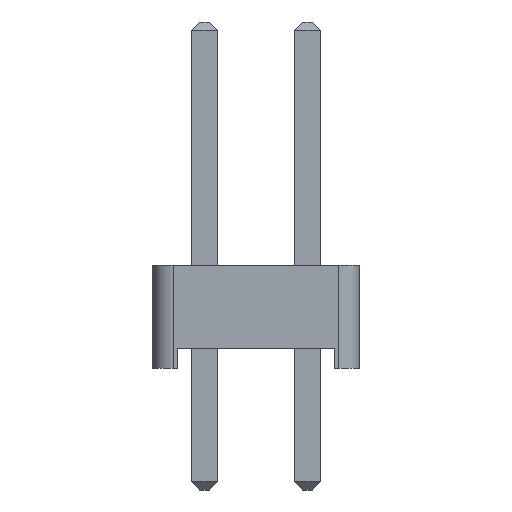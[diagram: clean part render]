
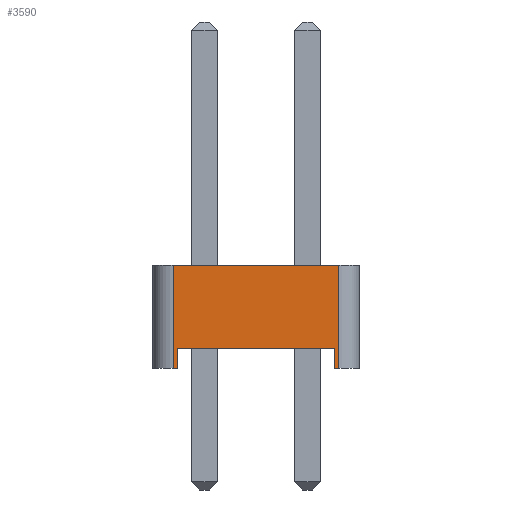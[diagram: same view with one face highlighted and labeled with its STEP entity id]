
A CAD part, left-side view. The second image highlights one B-rep face of the part: STEP entity #3590.
In plain terms, the highlighted planar face has unit normal (-1, 0, 0).
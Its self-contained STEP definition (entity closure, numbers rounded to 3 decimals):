
#3330 = VERTEX_POINT('',#3331);
#3331 = CARTESIAN_POINT('',(-1.27,2.04,0.));
#3339 = PLANE('',#3340);
#3340 = AXIS2_PLACEMENT_3D('',#3341,#3342,#3343);
#3341 = CARTESIAN_POINT('',(0.,0.,0.));
#3342 = DIRECTION('',(-0.,-0.,-1.));
#3343 = DIRECTION('',(-1.,0.,0.));
#3355 = CYLINDRICAL_SURFACE('',#3356,0.5);
#3356 = AXIS2_PLACEMENT_3D('',#3357,#3358,#3359);
#3357 = CARTESIAN_POINT('',(-0.77,2.04,0.));
#3358 = DIRECTION('',(0.,0.,1.));
#3359 = DIRECTION('',(0.,1.,0.));
#3457 = VERTEX_POINT('',#3458);
#3458 = CARTESIAN_POINT('',(-1.27,1.94,0.));
#3472 = PLANE('',#3473);
#3473 = AXIS2_PLACEMENT_3D('',#3474,#3475,#3476);
#3474 = CARTESIAN_POINT('',(1.27,1.94,0.));
#3475 = DIRECTION('',(0.,-1.,0.));
#3476 = DIRECTION('',(-1.,0.,0.));
#3484 = EDGE_CURVE('',#3457,#3330,#3485,.T.);
#3485 = SURFACE_CURVE('',#3486,(#3490,#3497),.PCURVE_S1.);
#3486 = LINE('',#3487,#3488);
#3487 = CARTESIAN_POINT('',(-1.27,-2.54,0.));
#3488 = VECTOR('',#3489,1.);
#3489 = DIRECTION('',(0.,1.,0.));
#3490 = PCURVE('',#3339,#3491);
#3491 = DEFINITIONAL_REPRESENTATION('',(#3492),#3496);
#3492 = LINE('',#3493,#3494);
#3493 = CARTESIAN_POINT('',(1.27,-2.54));
#3494 = VECTOR('',#3495,1.);
#3495 = DIRECTION('',(0.,1.));
#3496 = ( GEOMETRIC_REPRESENTATION_CONTEXT(2) 
PARAMETRIC_REPRESENTATION_CONTEXT() REPRESENTATION_CONTEXT('2D SPACE',''
  ) );
#3497 = PCURVE('',#3498,#3503);
#3498 = PLANE('',#3499);
#3499 = AXIS2_PLACEMENT_3D('',#3500,#3501,#3502);
#3500 = CARTESIAN_POINT('',(-1.27,-2.54,0.));
#3501 = DIRECTION('',(-1.,0.,0.));
#3502 = DIRECTION('',(0.,1.,0.));
#3503 = DEFINITIONAL_REPRESENTATION('',(#3504),#3508);
#3504 = LINE('',#3505,#3506);
#3505 = CARTESIAN_POINT('',(0.,0.));
#3506 = VECTOR('',#3507,1.);
#3507 = DIRECTION('',(1.,0.));
#3508 = ( GEOMETRIC_REPRESENTATION_CONTEXT(2) 
PARAMETRIC_REPRESENTATION_CONTEXT() REPRESENTATION_CONTEXT('2D SPACE',''
  ) );
#3514 = EDGE_CURVE('',#3330,#3515,#3517,.T.);
#3515 = VERTEX_POINT('',#3516);
#3516 = CARTESIAN_POINT('',(-1.27,2.04,2.54));
#3517 = SURFACE_CURVE('',#3518,(#3522,#3529),.PCURVE_S1.);
#3518 = LINE('',#3519,#3520);
#3519 = CARTESIAN_POINT('',(-1.27,2.04,0.));
#3520 = VECTOR('',#3521,1.);
#3521 = DIRECTION('',(0.,0.,1.));
#3522 = PCURVE('',#3355,#3523);
#3523 = DEFINITIONAL_REPRESENTATION('',(#3524),#3528);
#3524 = LINE('',#3525,#3526);
#3525 = CARTESIAN_POINT('',(1.571,0.));
#3526 = VECTOR('',#3527,1.);
#3527 = DIRECTION('',(0.,1.));
#3528 = ( GEOMETRIC_REPRESENTATION_CONTEXT(2) 
PARAMETRIC_REPRESENTATION_CONTEXT() REPRESENTATION_CONTEXT('2D SPACE',''
  ) );
#3529 = PCURVE('',#3498,#3530);
#3530 = DEFINITIONAL_REPRESENTATION('',(#3531),#3535);
#3531 = LINE('',#3532,#3533);
#3532 = CARTESIAN_POINT('',(4.58,0.));
#3533 = VECTOR('',#3534,1.);
#3534 = DIRECTION('',(0.,-1.));
#3535 = ( GEOMETRIC_REPRESENTATION_CONTEXT(2) 
PARAMETRIC_REPRESENTATION_CONTEXT() REPRESENTATION_CONTEXT('2D SPACE',''
  ) );
#3554 = PLANE('',#3555);
#3555 = AXIS2_PLACEMENT_3D('',#3556,#3557,#3558);
#3556 = CARTESIAN_POINT('',(0.,0.,2.54));
#3557 = DIRECTION('',(-0.,-0.,-1.));
#3558 = DIRECTION('',(-1.,0.,0.));
#3590 = ADVANCED_FACE('',(#3591),#3498,.T.);
#3591 = FACE_BOUND('',#3592,.T.);
#3592 = EDGE_LOOP('',(#3593,#3623,#3651,#3672,#3673,#3674,#3697,#3725));
#3593 = ORIENTED_EDGE('',*,*,#3594,.F.);
#3594 = EDGE_CURVE('',#3595,#3597,#3599,.T.);
#3595 = VERTEX_POINT('',#3596);
#3596 = CARTESIAN_POINT('',(-1.27,-2.04,0.));
#3597 = VERTEX_POINT('',#3598);
#3598 = CARTESIAN_POINT('',(-1.27,-1.94,0.));
#3599 = SURFACE_CURVE('',#3600,(#3604,#3611),.PCURVE_S1.);
#3600 = LINE('',#3601,#3602);
#3601 = CARTESIAN_POINT('',(-1.27,-2.54,0.));
#3602 = VECTOR('',#3603,1.);
#3603 = DIRECTION('',(0.,1.,0.));
#3604 = PCURVE('',#3498,#3605);
#3605 = DEFINITIONAL_REPRESENTATION('',(#3606),#3610);
#3606 = LINE('',#3607,#3608);
#3607 = CARTESIAN_POINT('',(0.,0.));
#3608 = VECTOR('',#3609,1.);
#3609 = DIRECTION('',(1.,0.));
#3610 = ( GEOMETRIC_REPRESENTATION_CONTEXT(2) 
PARAMETRIC_REPRESENTATION_CONTEXT() REPRESENTATION_CONTEXT('2D SPACE',''
  ) );
#3611 = PCURVE('',#3612,#3617);
#3612 = PLANE('',#3613);
#3613 = AXIS2_PLACEMENT_3D('',#3614,#3615,#3616);
#3614 = CARTESIAN_POINT('',(0.,0.,0.));
#3615 = DIRECTION('',(-0.,-0.,-1.));
#3616 = DIRECTION('',(-1.,0.,0.));
#3617 = DEFINITIONAL_REPRESENTATION('',(#3618),#3622);
#3618 = LINE('',#3619,#3620);
#3619 = CARTESIAN_POINT('',(1.27,-2.54));
#3620 = VECTOR('',#3621,1.);
#3621 = DIRECTION('',(0.,1.));
#3622 = ( GEOMETRIC_REPRESENTATION_CONTEXT(2) 
PARAMETRIC_REPRESENTATION_CONTEXT() REPRESENTATION_CONTEXT('2D SPACE',''
  ) );
#3623 = ORIENTED_EDGE('',*,*,#3624,.T.);
#3624 = EDGE_CURVE('',#3595,#3625,#3627,.T.);
#3625 = VERTEX_POINT('',#3626);
#3626 = CARTESIAN_POINT('',(-1.27,-2.04,2.54));
#3627 = SURFACE_CURVE('',#3628,(#3632,#3639),.PCURVE_S1.);
#3628 = LINE('',#3629,#3630);
#3629 = CARTESIAN_POINT('',(-1.27,-2.04,0.));
#3630 = VECTOR('',#3631,1.);
#3631 = DIRECTION('',(0.,0.,1.));
#3632 = PCURVE('',#3498,#3633);
#3633 = DEFINITIONAL_REPRESENTATION('',(#3634),#3638);
#3634 = LINE('',#3635,#3636);
#3635 = CARTESIAN_POINT('',(0.5,0.));
#3636 = VECTOR('',#3637,1.);
#3637 = DIRECTION('',(0.,-1.));
#3638 = ( GEOMETRIC_REPRESENTATION_CONTEXT(2) 
PARAMETRIC_REPRESENTATION_CONTEXT() REPRESENTATION_CONTEXT('2D SPACE',''
  ) );
#3639 = PCURVE('',#3640,#3645);
#3640 = CYLINDRICAL_SURFACE('',#3641,0.5);
#3641 = AXIS2_PLACEMENT_3D('',#3642,#3643,#3644);
#3642 = CARTESIAN_POINT('',(-0.77,-2.04,0.));
#3643 = DIRECTION('',(0.,0.,1.));
#3644 = DIRECTION('',(0.,-1.,0.));
#3645 = DEFINITIONAL_REPRESENTATION('',(#3646),#3650);
#3646 = LINE('',#3647,#3648);
#3647 = CARTESIAN_POINT('',(-1.571,0.));
#3648 = VECTOR('',#3649,1.);
#3649 = DIRECTION('',(-0.,1.));
#3650 = ( GEOMETRIC_REPRESENTATION_CONTEXT(2) 
PARAMETRIC_REPRESENTATION_CONTEXT() REPRESENTATION_CONTEXT('2D SPACE',''
  ) );
#3651 = ORIENTED_EDGE('',*,*,#3652,.T.);
#3652 = EDGE_CURVE('',#3625,#3515,#3653,.T.);
#3653 = SURFACE_CURVE('',#3654,(#3658,#3665),.PCURVE_S1.);
#3654 = LINE('',#3655,#3656);
#3655 = CARTESIAN_POINT('',(-1.27,-2.54,2.54));
#3656 = VECTOR('',#3657,1.);
#3657 = DIRECTION('',(0.,1.,0.));
#3658 = PCURVE('',#3498,#3659);
#3659 = DEFINITIONAL_REPRESENTATION('',(#3660),#3664);
#3660 = LINE('',#3661,#3662);
#3661 = CARTESIAN_POINT('',(0.,-2.54));
#3662 = VECTOR('',#3663,1.);
#3663 = DIRECTION('',(1.,0.));
#3664 = ( GEOMETRIC_REPRESENTATION_CONTEXT(2) 
PARAMETRIC_REPRESENTATION_CONTEXT() REPRESENTATION_CONTEXT('2D SPACE',''
  ) );
#3665 = PCURVE('',#3554,#3666);
#3666 = DEFINITIONAL_REPRESENTATION('',(#3667),#3671);
#3667 = LINE('',#3668,#3669);
#3668 = CARTESIAN_POINT('',(1.27,-2.54));
#3669 = VECTOR('',#3670,1.);
#3670 = DIRECTION('',(0.,1.));
#3671 = ( GEOMETRIC_REPRESENTATION_CONTEXT(2) 
PARAMETRIC_REPRESENTATION_CONTEXT() REPRESENTATION_CONTEXT('2D SPACE',''
  ) );
#3672 = ORIENTED_EDGE('',*,*,#3514,.F.);
#3673 = ORIENTED_EDGE('',*,*,#3484,.F.);
#3674 = ORIENTED_EDGE('',*,*,#3675,.T.);
#3675 = EDGE_CURVE('',#3457,#3676,#3678,.T.);
#3676 = VERTEX_POINT('',#3677);
#3677 = CARTESIAN_POINT('',(-1.27,1.94,0.5));
#3678 = SURFACE_CURVE('',#3679,(#3683,#3690),.PCURVE_S1.);
#3679 = LINE('',#3680,#3681);
#3680 = CARTESIAN_POINT('',(-1.27,1.94,0.));
#3681 = VECTOR('',#3682,1.);
#3682 = DIRECTION('',(0.,0.,1.));
#3683 = PCURVE('',#3498,#3684);
#3684 = DEFINITIONAL_REPRESENTATION('',(#3685),#3689);
#3685 = LINE('',#3686,#3687);
#3686 = CARTESIAN_POINT('',(4.48,0.));
#3687 = VECTOR('',#3688,1.);
#3688 = DIRECTION('',(0.,-1.));
#3689 = ( GEOMETRIC_REPRESENTATION_CONTEXT(2) 
PARAMETRIC_REPRESENTATION_CONTEXT() REPRESENTATION_CONTEXT('2D SPACE',''
  ) );
#3690 = PCURVE('',#3472,#3691);
#3691 = DEFINITIONAL_REPRESENTATION('',(#3692),#3696);
#3692 = LINE('',#3693,#3694);
#3693 = CARTESIAN_POINT('',(2.54,0.));
#3694 = VECTOR('',#3695,1.);
#3695 = DIRECTION('',(0.,-1.));
#3696 = ( GEOMETRIC_REPRESENTATION_CONTEXT(2) 
PARAMETRIC_REPRESENTATION_CONTEXT() REPRESENTATION_CONTEXT('2D SPACE',''
  ) );
#3697 = ORIENTED_EDGE('',*,*,#3698,.T.);
#3698 = EDGE_CURVE('',#3676,#3699,#3701,.T.);
#3699 = VERTEX_POINT('',#3700);
#3700 = CARTESIAN_POINT('',(-1.27,-1.94,0.5));
#3701 = SURFACE_CURVE('',#3702,(#3706,#3713),.PCURVE_S1.);
#3702 = LINE('',#3703,#3704);
#3703 = CARTESIAN_POINT('',(-1.27,1.94,0.5));
#3704 = VECTOR('',#3705,1.);
#3705 = DIRECTION('',(0.,-1.,0.));
#3706 = PCURVE('',#3498,#3707);
#3707 = DEFINITIONAL_REPRESENTATION('',(#3708),#3712);
#3708 = LINE('',#3709,#3710);
#3709 = CARTESIAN_POINT('',(4.48,-0.5));
#3710 = VECTOR('',#3711,1.);
#3711 = DIRECTION('',(-1.,0.));
#3712 = ( GEOMETRIC_REPRESENTATION_CONTEXT(2) 
PARAMETRIC_REPRESENTATION_CONTEXT() REPRESENTATION_CONTEXT('2D SPACE',''
  ) );
#3713 = PCURVE('',#3714,#3719);
#3714 = PLANE('',#3715);
#3715 = AXIS2_PLACEMENT_3D('',#3716,#3717,#3718);
#3716 = CARTESIAN_POINT('',(0.,0.,0.5));
#3717 = DIRECTION('',(0.,0.,1.));
#3718 = DIRECTION('',(1.,0.,0.));
#3719 = DEFINITIONAL_REPRESENTATION('',(#3720),#3724);
#3720 = LINE('',#3721,#3722);
#3721 = CARTESIAN_POINT('',(-1.27,1.94));
#3722 = VECTOR('',#3723,1.);
#3723 = DIRECTION('',(0.,-1.));
#3724 = ( GEOMETRIC_REPRESENTATION_CONTEXT(2) 
PARAMETRIC_REPRESENTATION_CONTEXT() REPRESENTATION_CONTEXT('2D SPACE',''
  ) );
#3725 = ORIENTED_EDGE('',*,*,#3726,.F.);
#3726 = EDGE_CURVE('',#3597,#3699,#3727,.T.);
#3727 = SURFACE_CURVE('',#3728,(#3732,#3739),.PCURVE_S1.);
#3728 = LINE('',#3729,#3730);
#3729 = CARTESIAN_POINT('',(-1.27,-1.94,0.));
#3730 = VECTOR('',#3731,1.);
#3731 = DIRECTION('',(0.,0.,1.));
#3732 = PCURVE('',#3498,#3733);
#3733 = DEFINITIONAL_REPRESENTATION('',(#3734),#3738);
#3734 = LINE('',#3735,#3736);
#3735 = CARTESIAN_POINT('',(0.6,0.));
#3736 = VECTOR('',#3737,1.);
#3737 = DIRECTION('',(0.,-1.));
#3738 = ( GEOMETRIC_REPRESENTATION_CONTEXT(2) 
PARAMETRIC_REPRESENTATION_CONTEXT() REPRESENTATION_CONTEXT('2D SPACE',''
  ) );
#3739 = PCURVE('',#3740,#3745);
#3740 = PLANE('',#3741);
#3741 = AXIS2_PLACEMENT_3D('',#3742,#3743,#3744);
#3742 = CARTESIAN_POINT('',(-1.27,-1.94,0.));
#3743 = DIRECTION('',(0.,1.,0.));
#3744 = DIRECTION('',(1.,0.,0.));
#3745 = DEFINITIONAL_REPRESENTATION('',(#3746),#3750);
#3746 = LINE('',#3747,#3748);
#3747 = CARTESIAN_POINT('',(0.,0.));
#3748 = VECTOR('',#3749,1.);
#3749 = DIRECTION('',(0.,-1.));
#3750 = ( GEOMETRIC_REPRESENTATION_CONTEXT(2) 
PARAMETRIC_REPRESENTATION_CONTEXT() REPRESENTATION_CONTEXT('2D SPACE',''
  ) );
